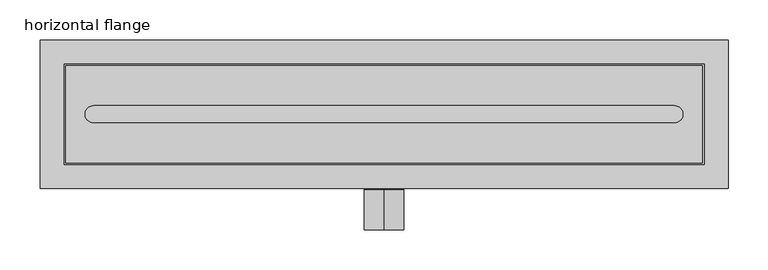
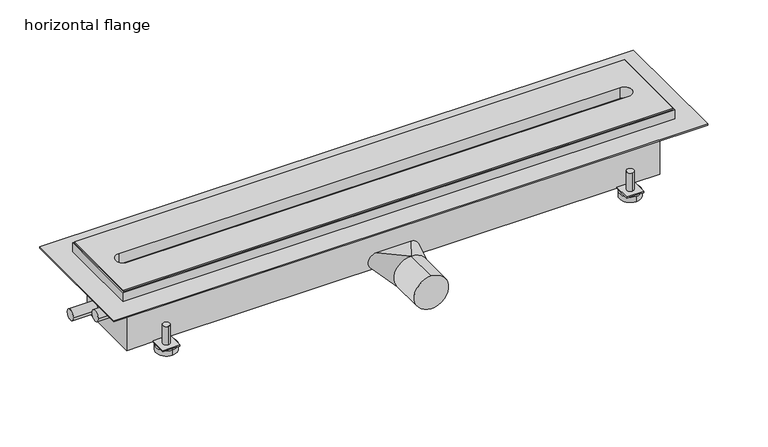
"""IFC4 building model written with IfcOpenShell, lengths in millimetres: sanitary terminal geometry, PF_UN_ShowerDrain X_ACO : horizontal flange."""

from ifc_helpers import new_model, si_unit, point, frame, frame_2d, origin, origin_with_axes, place, context, project, spatial, polyline, circle_curve, trimmed, segment, composite_curve, outline, extrude, faceted_brep, source, transform, mapped, element, save
from ifc_brep_helpers import plane_surface, cylinder_surface, spline_surface, advanced_brep


def horizontal_flange_18f63413(model_context):
    return source(origin(), model_context, "Body", "SolidModel", [
        advanced_brep(
        [(-336.0, 67.0, -56.0), (-336.0, 57.0, -56.0), (-336.0, 77.0, -94.0), (-336.0, 47.0, -94.0), (-336.0, 67.0, -86.0), (-336.0, 57.0, -86.0), (-336.0, 77.0, -86.0), (-336.0, 47.0, -86.0)],
        [
            (0, 1, circle_curve(frame((-336.0, 62.0, -56.0), z_axis=(0.0, 0.0, 1.0), x_axis=(0.0, -1.0, 0.0)), 5.0)),
            (1, 0, circle_curve(frame((-336.0, 62.0, -56.0), z_axis=(0.0, 0.0, 1.0), x_axis=(0.0, -1.0, 0.0)), 5.0)),
            (2, 3, circle_curve(frame((-336.0, 62.0, -94.0), z_axis=(0.0, 0.0, -1.0), x_axis=(0.0, -1.0, 0.0)), 15.0)),
            (3, 2, circle_curve(frame((-336.0, 62.0, -94.0), z_axis=(0.0, 0.0, -1.0), x_axis=(0.0, -1.0, 0.0)), 15.0)),
            (0, 4),
            (4, 5, circle_curve(frame((-336.0, 62.0, -86.0), z_axis=(0.0, 0.0, 1.0), x_axis=(0.0, -1.0, 0.0)), 5.0)),
            (5, 1),
            (5, 4, circle_curve(frame((-336.0, 62.0, -86.0), z_axis=(0.0, 0.0, 1.0), x_axis=(0.0, -1.0, 0.0)), 5.0)),
            (6, 7, circle_curve(frame((-336.0, 62.0, -86.0), z_axis=(0.0, 0.0, 1.0), x_axis=(0.0, -1.0, 0.0)), 15.0)),
            (7, 6, circle_curve(frame((-336.0, 62.0, -86.0), z_axis=(0.0, 0.0, 1.0), x_axis=(0.0, -1.0, 0.0)), 15.0)),
            (6, 2),
            (3, 7),
        ],
        [
            plane_surface(frame((-336.0, 57.0, -56.0), z_axis=(0.0, 0.0, 1.0), x_axis=(1.0, 0.0, 0.0))),
            plane_surface(frame((-336.0, 57.0, -94.0), z_axis=(0.0, 0.0, -1.0), x_axis=(-1.0, 0.0, 0.0))),
            cylinder_surface(frame((-336.0, 62.0, -94.0), z_axis=(0.0, 0.0, 1.0), x_axis=(0.0, -1.0, 0.0)), 5.0),
            plane_surface(frame((-336.0, 47.0, -86.0), z_axis=(0.0, 0.0, 1.0), x_axis=(1.0, 0.0, 0.0))),
            cylinder_surface(frame((-336.0, 62.0, -94.0), z_axis=(0.0, 0.0, 1.0), x_axis=(0.0, -1.0, 0.0)), 15.0),
        ],
        [
            (0, [[1, 2]]),
            (1, [[3, 4]]),
            (2, [[-1, 5, 6, 7]]),
            (2, [[-2, -7, 8, -5]]),
            (3, [[9, 10], [-6, -8]]),
            (4, [[-9, 11, -4, 12]]),
            (4, [[-10, -12, -3, -11]]),
        ],
    ),
        advanced_brep(
        [(-336.0, -56.5, -56.0), (-336.0, -66.5, -56.0), (-336.0, -46.5, -94.0), (-336.0, -76.5, -94.0), (-336.0, -56.5, -86.0), (-336.0, -66.5, -86.0), (-336.0, -46.5, -86.0), (-336.0, -76.5, -86.0)],
        [
            (0, 1, circle_curve(frame((-336.0, -61.5, -56.0), z_axis=(0.0, 0.0, 1.0), x_axis=(0.0, -1.0, 0.0)), 5.0)),
            (1, 0, circle_curve(frame((-336.0, -61.5, -56.0), z_axis=(0.0, 0.0, 1.0), x_axis=(0.0, -1.0, 0.0)), 5.0)),
            (2, 3, circle_curve(frame((-336.0, -61.5, -94.0), z_axis=(0.0, 0.0, -1.0), x_axis=(0.0, -1.0, 0.0)), 15.0)),
            (3, 2, circle_curve(frame((-336.0, -61.5, -94.0), z_axis=(0.0, 0.0, -1.0), x_axis=(0.0, -1.0, 0.0)), 15.0)),
            (0, 4),
            (4, 5, circle_curve(frame((-336.0, -61.5, -86.0), z_axis=(0.0, 0.0, 1.0), x_axis=(0.0, -1.0, 0.0)), 5.0)),
            (5, 1),
            (5, 4, circle_curve(frame((-336.0, -61.5, -86.0), z_axis=(0.0, 0.0, 1.0), x_axis=(0.0, -1.0, 0.0)), 5.0)),
            (6, 7, circle_curve(frame((-336.0, -61.5, -86.0), z_axis=(0.0, 0.0, 1.0), x_axis=(0.0, -1.0, 0.0)), 15.0)),
            (7, 6, circle_curve(frame((-336.0, -61.5, -86.0), z_axis=(0.0, 0.0, 1.0), x_axis=(0.0, -1.0, 0.0)), 15.0)),
            (6, 2),
            (3, 7),
        ],
        [
            plane_surface(frame((-336.0, 57.0, -56.0), z_axis=(0.0, 0.0, 1.0), x_axis=(1.0, 0.0, 0.0))),
            plane_surface(frame((-336.0, 57.0, -94.0), z_axis=(0.0, 0.0, -1.0), x_axis=(-1.0, 0.0, 0.0))),
            cylinder_surface(frame((-336.0, -61.5, -94.0), z_axis=(0.0, 0.0, 1.0), x_axis=(0.0, -1.0, 0.0)), 5.0),
            plane_surface(frame((-336.0, 47.0, -86.0), z_axis=(0.0, 0.0, 1.0), x_axis=(1.0, 0.0, 0.0))),
            cylinder_surface(frame((-336.0, -61.5, -94.0), z_axis=(0.0, 0.0, 1.0), x_axis=(0.0, -1.0, 0.0)), 15.0),
        ],
        [
            (0, [[1, 2]]),
            (1, [[3, 4]]),
            (2, [[-1, 5, 6, 7]]),
            (2, [[-2, -7, 8, -5]]),
            (3, [[9, 10], [-6, -8]]),
            (4, [[-9, 11, -4, 12]]),
            (4, [[-10, -12, -3, -11]]),
        ],
    ),
        advanced_brep(
        [(336.0, 67.0, -56.0), (336.0, 57.0, -56.0), (336.0, 77.0, -94.0), (336.0, 47.0, -94.0), (336.0, 67.0, -86.0), (336.0, 57.0, -86.0), (336.0, 77.0, -86.0), (336.0, 47.0, -86.0)],
        [
            (0, 1, circle_curve(frame((336.0, 62.0, -56.0), z_axis=(0.0, 0.0, 1.0), x_axis=(0.0, -1.0, 0.0)), 5.0)),
            (1, 0, circle_curve(frame((336.0, 62.0, -56.0), z_axis=(0.0, 0.0, 1.0), x_axis=(0.0, -1.0, 0.0)), 5.0)),
            (2, 3, circle_curve(frame((336.0, 62.0, -94.0), z_axis=(0.0, 0.0, -1.0), x_axis=(0.0, -1.0, 0.0)), 15.0)),
            (3, 2, circle_curve(frame((336.0, 62.0, -94.0), z_axis=(0.0, 0.0, -1.0), x_axis=(0.0, -1.0, 0.0)), 15.0)),
            (0, 4),
            (4, 5, circle_curve(frame((336.0, 62.0, -86.0), z_axis=(0.0, 0.0, 1.0), x_axis=(0.0, -1.0, 0.0)), 5.0)),
            (5, 1),
            (5, 4, circle_curve(frame((336.0, 62.0, -86.0), z_axis=(0.0, 0.0, 1.0), x_axis=(0.0, -1.0, 0.0)), 5.0)),
            (6, 7, circle_curve(frame((336.0, 62.0, -86.0), z_axis=(0.0, 0.0, 1.0), x_axis=(0.0, -1.0, 0.0)), 15.0)),
            (7, 6, circle_curve(frame((336.0, 62.0, -86.0), z_axis=(0.0, 0.0, 1.0), x_axis=(0.0, -1.0, 0.0)), 15.0)),
            (6, 2),
            (3, 7),
        ],
        [
            plane_surface(frame((-336.0, 57.0, -56.0), z_axis=(0.0, 0.0, 1.0), x_axis=(1.0, 0.0, 0.0))),
            plane_surface(frame((-336.0, 57.0, -94.0), z_axis=(0.0, 0.0, -1.0), x_axis=(-1.0, 0.0, 0.0))),
            cylinder_surface(frame((336.0, 62.0, -94.0), z_axis=(0.0, 0.0, 1.0), x_axis=(0.0, -1.0, 0.0)), 5.0),
            plane_surface(frame((-336.0, 47.0, -86.0), z_axis=(0.0, 0.0, 1.0), x_axis=(1.0, 0.0, 0.0))),
            cylinder_surface(frame((336.0, 62.0, -94.0), z_axis=(0.0, 0.0, 1.0), x_axis=(0.0, -1.0, 0.0)), 15.0),
        ],
        [
            (0, [[1, 2]]),
            (1, [[3, 4]]),
            (2, [[-1, 5, 6, 7]]),
            (2, [[-2, -7, 8, -5]]),
            (3, [[9, 10], [-6, -8]]),
            (4, [[-9, 11, -4, 12]]),
            (4, [[-10, -12, -3, -11]]),
        ],
    ),
        advanced_brep(
        [(336.0, -56.5, -56.0), (336.0, -66.5, -56.0), (336.0, -46.5, -94.0), (336.0, -76.5, -94.0), (336.0, -56.5, -86.0), (336.0, -66.5, -86.0), (336.0, -46.5, -86.0), (336.0, -76.5, -86.0)],
        [
            (0, 1, circle_curve(frame((336.0, -61.5, -56.0), z_axis=(0.0, 0.0, 1.0), x_axis=(0.0, -1.0, 0.0)), 5.0)),
            (1, 0, circle_curve(frame((336.0, -61.5, -56.0), z_axis=(0.0, 0.0, 1.0), x_axis=(0.0, -1.0, 0.0)), 5.0)),
            (2, 3, circle_curve(frame((336.0, -61.5, -94.0), z_axis=(0.0, 0.0, -1.0), x_axis=(0.0, -1.0, 0.0)), 15.0)),
            (3, 2, circle_curve(frame((336.0, -61.5, -94.0), z_axis=(0.0, 0.0, -1.0), x_axis=(0.0, -1.0, 0.0)), 15.0)),
            (0, 4),
            (4, 5, circle_curve(frame((336.0, -61.5, -86.0), z_axis=(0.0, 0.0, 1.0), x_axis=(0.0, -1.0, 0.0)), 5.0)),
            (5, 1),
            (5, 4, circle_curve(frame((336.0, -61.5, -86.0), z_axis=(0.0, 0.0, 1.0), x_axis=(0.0, -1.0, 0.0)), 5.0)),
            (6, 7, circle_curve(frame((336.0, -61.5, -86.0), z_axis=(0.0, 0.0, 1.0), x_axis=(0.0, -1.0, 0.0)), 15.0)),
            (7, 6, circle_curve(frame((336.0, -61.5, -86.0), z_axis=(0.0, 0.0, 1.0), x_axis=(0.0, -1.0, 0.0)), 15.0)),
            (6, 2),
            (3, 7),
        ],
        [
            plane_surface(frame((-336.0, 57.0, -56.0), z_axis=(0.0, 0.0, 1.0), x_axis=(1.0, 0.0, 0.0))),
            plane_surface(frame((-336.0, 57.0, -94.0), z_axis=(0.0, 0.0, -1.0), x_axis=(-1.0, 0.0, 0.0))),
            cylinder_surface(frame((336.0, -61.5, -94.0), z_axis=(0.0, 0.0, 1.0), x_axis=(0.0, -1.0, 0.0)), 5.0),
            plane_surface(frame((-336.0, 47.0, -86.0), z_axis=(0.0, 0.0, 1.0), x_axis=(1.0, 0.0, 0.0))),
            cylinder_surface(frame((336.0, -61.5, -94.0), z_axis=(0.0, 0.0, 1.0), x_axis=(0.0, -1.0, 0.0)), 15.0),
        ],
        [
            (0, [[1, 2]]),
            (1, [[3, 4]]),
            (2, [[-1, 5, 6, 7]]),
            (2, [[-2, -7, 8, -5]]),
            (3, [[9, 10], [-6, -8]]),
            (4, [[-9, 11, -4, 12]]),
            (4, [[-10, -12, -3, -11]]),
        ],
    ),
        advanced_brep(
        [(386.0, 50.0, -86.0), (386.0, -49.0, -86.0), (348.5, -49.0, -86.0), (348.5, -74.0, -86.0), (323.5, -74.0, -86.0), (323.5, -49.0, -86.0), (-323.5, -49.0, -86.0), (-323.5, -74.0, -86.0), (-348.5, -74.0, -86.0), (-348.5, -49.0, -86.0), (-386.0, -49.0, -86.0), (-386.0, 50.0, -86.0), (-348.5, 50.0, -86.0), (-348.5, 74.0, -86.0), (-323.5, 74.0, -86.0), (-323.5, 50.0, -86.0), (323.5, 50.0, -86.0), (323.5, 74.0, -86.0), (348.5, 74.0, -86.0), (348.5, 50.0, -86.0), (386.0, 50.0, -8.0), (-386.0, 50.0, -8.0), (-386.0, -49.0, -8.0), (386.0, -49.0, -8.0), (348.5, 50.0, -84.0), (323.5, 50.0, -84.0), (-323.5, 50.0, -84.0), (-348.5, 50.0, -84.0), (-386.0, 39.85, -68.0), (-386.0, 24.15, -68.0), (-386.0, -22.15, -32.0), (-386.0, -37.85, -32.0), (-348.5, -49.0, -84.0), (-323.5, -49.0, -84.0), (323.5, -49.0, -84.0), (348.5, -49.0, -84.0), (-421.0, 39.85, -68.0), (-421.0, 24.15, -68.0), (-421.0, -22.15, -32.0), (-421.0, -37.85, -32.0), (-323.5, 74.0, -84.0), (-348.5, 74.0, -84.0), (348.5, 74.0, -84.0), (323.5, 74.0, -84.0), (348.5, -74.0, -84.0), (323.5, -74.0, -84.0), (-348.5, -74.0, -84.0), (-323.5, -74.0, -84.0)],
        [
            (0, 1),
            (1, 2),
            (2, 3),
            (3, 4),
            (4, 5),
            (5, 6),
            (6, 7),
            (7, 8),
            (8, 9),
            (9, 10),
            (10, 11),
            (11, 12),
            (12, 13),
            (13, 14),
            (14, 15),
            (15, 16),
            (16, 17),
            (17, 18),
            (18, 19),
            (19, 0),
            (20, 21),
            (21, 22),
            (22, 23),
            (23, 20),
            (20, 0),
            (19, 24),
            (24, 25),
            (25, 16),
            (15, 26),
            (26, 27),
            (27, 12),
            (11, 21),
            (10, 22),
            (28, 29, circle_curve(frame((-386.0, 32.0, -68.0), z_axis=(1.0, 0.0, 0.0), x_axis=(0.0, -1.0, 0.0)), 7.85)),
            (29, 28, circle_curve(frame((-386.0, 32.0, -68.0), z_axis=(1.0, 0.0, 0.0), x_axis=(0.0, -1.0, 0.0)), 7.85)),
            (30, 31, circle_curve(frame((-386.0, -30.0, -32.0), z_axis=(1.0, 0.0, 0.0), x_axis=(0.0, -1.0, 0.0)), 7.85)),
            (31, 30, circle_curve(frame((-386.0, -30.0, -32.0), z_axis=(1.0, 0.0, 0.0), x_axis=(0.0, -1.0, 0.0)), 7.85)),
            (9, 32),
            (32, 33),
            (33, 6),
            (5, 34),
            (34, 35),
            (35, 2),
            (1, 23),
            (36, 37, circle_curve(frame((-421.0, 32.0, -68.0), z_axis=(-1.0, 0.0, 0.0), x_axis=(0.0, -1.0, 0.0)), 7.85)),
            (37, 36, circle_curve(frame((-421.0, 32.0, -68.0), z_axis=(-1.0, 0.0, 0.0), x_axis=(0.0, -1.0, 0.0)), 7.85)),
            (37, 29),
            (28, 36),
            (38, 39, circle_curve(frame((-421.0, -30.0, -32.0), z_axis=(-1.0, 0.0, 0.0), x_axis=(0.0, -1.0, 0.0)), 7.85)),
            (39, 38, circle_curve(frame((-421.0, -30.0, -32.0), z_axis=(-1.0, 0.0, 0.0), x_axis=(0.0, -1.0, 0.0)), 7.85)),
            (39, 31),
            (30, 38),
            (40, 41),
            (41, 27),
            (26, 40),
            (42, 43),
            (43, 25),
            (24, 42),
            (44, 35),
            (34, 45),
            (45, 44),
            (46, 47),
            (47, 33),
            (32, 46),
            (40, 14),
            (13, 41),
            (42, 18),
            (17, 43),
            (44, 3),
            (4, 45),
            (46, 8),
            (7, 47),
        ],
        [
            plane_surface(frame((-386.0, 50.0, -86.0), z_axis=(0.0, 0.0, -1.0), x_axis=(1.0, 0.0, 0.0))),
            plane_surface(frame((-386.0, 50.0, -8.0), z_axis=(0.0, 0.0, 1.0), x_axis=(-1.0, 0.0, 0.0))),
            plane_surface(frame((386.0, 50.0, -8.0), z_axis=(0.0, 1.0, 0.0), x_axis=(0.0, 0.0, -1.0))),
            plane_surface(frame((-386.0, 50.0, -8.0), z_axis=(-1.0, 0.0, 0.0), x_axis=(0.0, 0.0, -1.0))),
            plane_surface(frame((-386.0, -49.0, -8.0), z_axis=(0.0, -1.0, 0.0), x_axis=(0.0, 0.0, -1.0))),
            plane_surface(frame((386.0, -49.0, -8.0), z_axis=(1.0, 0.0, 0.0), x_axis=(0.0, 0.0, -1.0))),
            plane_surface(frame((-421.0, 32.0, -68.0), z_axis=(-1.0, 0.0, 0.0), x_axis=(0.0, 0.0, 1.0))),
            cylinder_surface(frame((0.0, 32.0, -68.0), z_axis=(1.0, 0.0, 0.0), x_axis=(0.0, -1.0, 0.0)), 7.85),
            plane_surface(frame((-421.0, -30.0, -32.0), z_axis=(-1.0, 0.0, 0.0), x_axis=(0.0, 0.0, 1.0))),
            cylinder_surface(frame((0.0, -30.0, -32.0), z_axis=(1.0, 0.0, 0.0), x_axis=(0.0, -1.0, 0.0)), 7.85),
            plane_surface(frame((-348.5, 74.0, -84.0), z_axis=(0.0, 0.0, 1.0), x_axis=(-1.0, 0.0, 0.0))),
            plane_surface(frame((-323.5, 74.0, -84.0), z_axis=(0.0, 1.0, 0.0), x_axis=(0.0, 0.0, -1.0))),
            plane_surface(frame((-348.5, 74.0, -84.0), z_axis=(-1.0, 0.0, 0.0), x_axis=(0.0, 0.0, -1.0))),
            plane_surface(frame((-323.5, 50.0, -84.0), z_axis=(1.0, 0.0, 0.0), x_axis=(0.0, 0.0, -1.0))),
            plane_surface(frame((348.5, 74.0, -84.0), z_axis=(0.0, 1.0, 0.0), x_axis=(0.0, 0.0, -1.0))),
            plane_surface(frame((323.5, 74.0, -84.0), z_axis=(-1.0, 0.0, 0.0), x_axis=(0.0, 0.0, -1.0))),
            plane_surface(frame((348.5, 50.0, -84.0), z_axis=(1.0, 0.0, 0.0), x_axis=(0.0, 0.0, -1.0))),
            plane_surface(frame((348.5, -74.0, -84.0), z_axis=(1.0, 0.0, 0.0), x_axis=(0.0, 0.0, -1.0))),
            plane_surface(frame((323.5, -49.0, -84.0), z_axis=(-1.0, 0.0, 0.0), x_axis=(0.0, 0.0, -1.0))),
            plane_surface(frame((323.5, -74.0, -84.0), z_axis=(0.0, -1.0, 0.0), x_axis=(0.0, 0.0, -1.0))),
            plane_surface(frame((-348.5, -74.0, -84.0), z_axis=(0.0, -1.0, 0.0), x_axis=(0.0, 0.0, -1.0))),
            plane_surface(frame((-323.5, -74.0, -84.0), z_axis=(1.0, 0.0, 0.0), x_axis=(0.0, 0.0, -1.0))),
            plane_surface(frame((-348.5, -49.0, -84.0), z_axis=(-1.0, 0.0, 0.0), x_axis=(0.0, 0.0, -1.0))),
        ],
        [
            (0, [[1, 2, 3, 4, 5, 6, 7, 8, 9, 10, 11, 12, 13, 14, 15, 16, 17, 18, 19, 20]]),
            (1, [[21, 22, 23, 24]]),
            (2, [[-21, 25, -20, 26, 27, 28, -16, 29, 30, 31, -12, 32]]),
            (3, [[-11, 33, -22, -32], [34, 35], [36, 37]]),
            (4, [[-23, -33, -10, 38, 39, 40, -6, 41, 42, 43, -2, 44]]),
            (5, [[-1, -25, -24, -44]]),
            (6, [[45, 46]]),
            (7, [[-46, 47, -34, 48]]),
            (7, [[-45, -48, -35, -47]]),
            (8, [[49, 50]]),
            (9, [[-50, 51, -36, 52]]),
            (9, [[-49, -52, -37, -51]]),
            (10, [[53, 54, -30, 55]]),
            (10, [[56, 57, -27, 58]]),
            (10, [[59, -42, 60, 61]]),
            (10, [[62, 63, -39, 64]]),
            (11, [[-53, 65, -14, 66]]),
            (12, [[-54, -66, -13, -31]]),
            (13, [[-55, -29, -15, -65]]),
            (14, [[-56, 67, -18, 68]]),
            (15, [[-57, -68, -17, -28]]),
            (16, [[-58, -26, -19, -67]]),
            (17, [[-59, 69, -3, -43]]),
            (18, [[-60, -41, -5, 70]]),
            (19, [[-61, -70, -4, -69]]),
            (20, [[-62, 71, -8, 72]]),
            (21, [[-63, -72, -7, -40]]),
            (22, [[-64, -38, -9, -71]]),
        ],
    ),
        extrude(outline(polyline([(398.0, 61.0), (398.0, -61.0), (-398.0, -61.0), (-398.0, 61.0), (398.0, 61.0)]), holes=[composite_curve([segment(polyline([(363.0860312, 10.6770786), (-363.0900069, 10.6770786)]), True, "CONTINUOUS"), segment(trimmed(circle_curve(frame_2d((-363.0900069, 0.0)), 10.6770786), [point((-363.0900069, 10.6770786))], [point((-363.0900069, -10.6770786))], True, "CARTESIAN"), True, "CONTINUOUS"), segment(polyline([(-363.0900069, -10.6770786), (363.0860312, -10.6770786)]), True, "CONTINUOUS"), segment(trimmed(circle_curve(frame_2d((363.0860312, 0.0)), 10.6770786), [point((363.0860312, -10.6770786))], [point((363.0860312, 10.6770786))], True, "CARTESIAN"), True, "CONTINUOUS")], self_intersect=False)]), origin_with_axes(), (0.0, 0.0, 1.0), 18.0),
        advanced_brep(
        [(0.0, -144.5, -99.0), (0.0, -144.5, -49.0), (0.0, -94.5, -99.0), (13.0, -94.5, -95.3541565), (13.0005627, -94.5, -52.6461861), (0.0, -94.5, -49.0), (-13.0, -94.5, -52.6458435), (-13.0, -94.5, -95.3541565), (25.0, -50.0, -86.0), (-25.0, -50.0, -86.0), (-25.0, -50.0, -62.0), (25.0, -50.0, -62.0)],
        [
            (0, 1, circle_curve(frame((0.0, -144.5, -74.0), z_axis=(0.0, -1.0, 0.0), x_axis=(0.0, 0.0, 1.0)), 25.0)),
            (1, 0, circle_curve(frame((0.0, -144.5, -74.0), z_axis=(0.0, -1.0, 0.0), x_axis=(0.0, 0.0, 1.0)), 25.0)),
            (0, 2),
            (2, 3, circle_curve(frame((0.0, -94.5, -74.0), z_axis=(0.0, -1.0, 0.0), x_axis=(0.0, 0.0, 1.0)), 25.0)),
            (3, 4, circle_curve(frame((0.0, -94.5, -74.0), z_axis=(0.0, -1.0, 0.0), x_axis=(0.0, 0.0, 1.0)), 25.0)),
            (4, 5, circle_curve(frame((0.0, -94.5, -74.0), z_axis=(0.0, -1.0, 0.0), x_axis=(0.0, 0.0, 1.0)), 25.0)),
            (5, 1),
            (5, 6, circle_curve(frame((0.0, -94.5, -74.0), z_axis=(0.0, -1.0, 0.0), x_axis=(0.0, 0.0, 1.0)), 25.0)),
            (6, 7, circle_curve(frame((0.0, -94.5, -74.0), z_axis=(0.0, -1.0, 0.0), x_axis=(0.0, 0.0, 1.0)), 25.0)),
            (7, 2, circle_curve(frame((0.0, -94.5, -74.0), z_axis=(0.0, -1.0, 0.0), x_axis=(0.0, 0.0, 1.0)), 25.0)),
            (8, 9),
            (9, 10, circle_curve(frame((-25.0, -50.0, -74.0), z_axis=(0.0, 1.0, 0.0), x_axis=(0.0, 0.0, 1.0)), 12.0)),
            (10, 11),
            (11, 8, circle_curve(frame((25.0, -50.0, -74.0), z_axis=(0.0, 1.0, 0.0), x_axis=(0.0, 0.0, 1.0)), 12.0)),
            (8, 2),
            (2, 9),
            (5, 10),
            (5, 11),
        ],
        [
            plane_surface(frame((0.0, -144.5, -74.0), z_axis=(0.0, -1.0, 0.0), x_axis=(1.0, 0.0, 0.0))),
            cylinder_surface(frame((0.0, -144.5, -74.0), z_axis=(0.0, -1.0, 0.0), x_axis=(0.0, 0.0, 1.0)), 25.0),
            plane_surface(frame((0.0, -50.0, -74.0), z_axis=(0.0, 1.0, 0.0), x_axis=(-1.0, 0.0, 0.0))),
            plane_surface(frame((0.0, -94.5, -99.0), z_axis=(0.0, 0.2804141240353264, -0.9598791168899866), x_axis=(-1.0, 0.0, 0.0))),
            spline_surface(2, 1, [[(0.0, -94.5, -99.0), (-25.0, -50.0, -86.0)], [(-25.0, -94.5, -99.0), (-37.0, -50.0, -86.0)], [(-25.0, -94.5, -74.0), (-37.0, -50.0, -74.0)], [(-25.0, -94.5, -49.0), (-37.0, -50.0, -62.0)], [(0.0, -94.5, -49.0), (-25.0, -50.0, -62.0)]], [3, 2, 3], [2, 2], [0.0, 1.0, 2.0], [0.0, 1.0], weights=[[1.0, 1.0], [0.7071067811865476, 0.7071067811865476], [1.0, 1.0], [0.7071067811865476, 0.7071067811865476], [1.0, 1.0]]),
            plane_surface(frame((0.0, -94.5, -49.0), z_axis=(0.0, 0.2804141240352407, 0.9598791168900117), x_axis=(1.0, 0.0, 0.0))),
            spline_surface(2, 1, [[(0.0, -94.5, -49.0), (25.0, -50.0, -62.0)], [(25.0, -94.5, -49.0), (37.0, -50.0, -62.0)], [(25.0, -94.5, -74.0), (37.0, -50.0, -74.0)], [(25.0, -94.5, -99.0), (37.0, -50.0, -86.0)], [(0.0, -94.5, -99.0), (25.0, -50.0, -86.0)]], [3, 2, 3], [2, 2], [0.0, 1.0, 2.0], [0.0, 1.0], weights=[[1.0, 1.0], [0.7071067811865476, 0.7071067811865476], [1.0, 1.0], [0.7071067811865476, 0.7071067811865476], [1.0, 1.0]]),
        ],
        [
            (0, [[1, 2]]),
            (1, [[-1, 3, 4, 5, 6, 7]]),
            (1, [[-2, -7, 8, 9, 10, -3]]),
            (2, [[11, 12, 13, 14]]),
            (3, [[-11, 15, 16]]),
            (4, [[-12, -16, -10, -9, -8, 17]]),
            (5, [[-13, -17, 18]]),
            (6, [[-14, -18, -6, -5, -4, -15]]),
        ],
    ),
        extrude(outline(polyline([(430.0, 93.0), (430.0, -93.0), (-430.0, -93.0), (-430.0, 93.0), (430.0, 93.0)])), origin_with_axes(), (0.0, 0.0, 1.0), 2.0),
        faceted_brep([(400.0, 63.0, 16.0), (-400.0, 63.0, 16.0), (-400.0, -63.0, 16.0), (400.0, -63.0, 16.0), (-398.0, 61.0, 16.0), (398.0, 61.0, 16.0), (398.0, -61.0, 16.0), (-398.0, -61.0, 16.0), (400.0, 63.0, -8.0), (400.0, -63.0, -8.0), (-400.0, -63.0, -8.0), (-400.0, 63.0, -8.0), (398.0, 61.0, -6.0), (-398.0, 61.0, -6.0), (-398.0, -61.0, -6.0), (398.0, -61.0, -6.0)], [[[0, 1, 2, 3], [4, 5, 6, 7]], [[8, 9, 10, 11]], [[1, 0, 8, 11]], [[2, 1, 11, 10]], [[3, 2, 10, 9]], [[0, 3, 9, 8]], [[12, 13, 14, 15]], [[13, 12, 5, 4]], [[14, 13, 4, 7]], [[15, 14, 7, 6]], [[12, 15, 6, 5]]]),
    ])


if __name__ == "__main__":
    model = new_model("IFC4")
    model_context = context("Model", 3, world=origin())
    ifc_project = project(units=[si_unit("LENGTHUNIT", "METRE", prefix="MILLI")], contexts=[model_context])
    site = spatial("IfcSite", under=ifc_project)
    building = spatial("IfcBuilding", under=site)
    placement = place(None, origin())
    horizontal_flange_shape = horizontal_flange_18f63413(model_context)
    element("IfcSanitaryTerminal", 1, ObjectType="PF_UN_ShowerDrain X_ACO : horizontal flange", at=placement, inside=building, context=model_context, shape_type="MappedRepresentation", body=[
        mapped(horizontal_flange_shape, transform((0.0, 0.0, 0.0), x_axis=(1.0, 0.0, 0.0), y_axis=(0.0, 1.0, 0.0), z_axis=(0.0, 0.0, 1.0))),
    ])
    save(model, "model.ifc")
